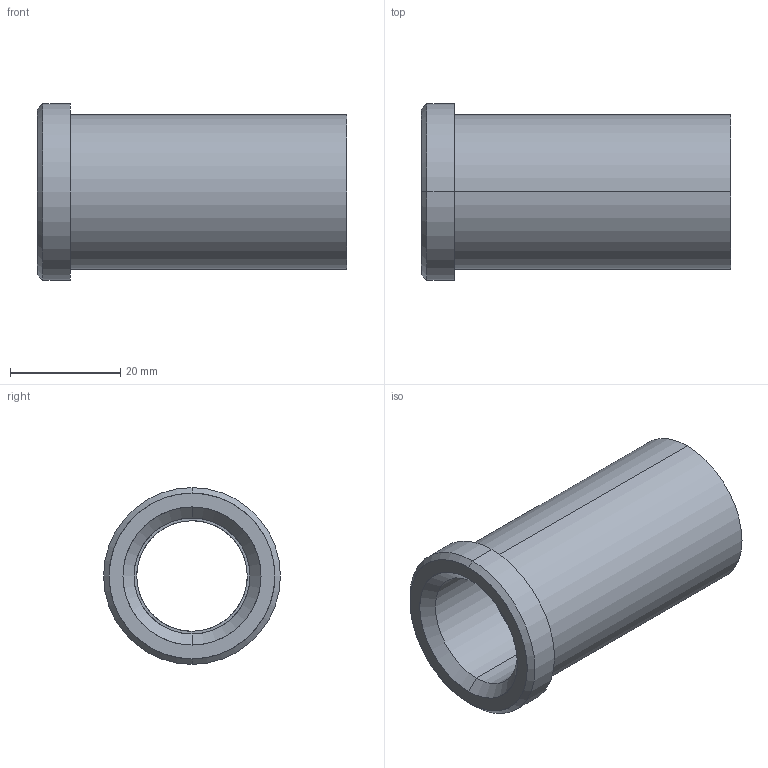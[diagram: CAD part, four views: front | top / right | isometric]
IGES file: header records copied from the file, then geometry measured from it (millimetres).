
Start section: START RECORD GO HERE.
Global section: file name: 353-20X56.igs; native system: DASSAULT SYSTEMES CATIA V5 R20 - www.3ds.com; preprocessor: CATIA Version 5 Release 20 ; author: Utente; organization: NB04-ASUS; date: 20210511.164917; units: millimetre
Bounding box: 56 x 32 x 32 mm (x, y, z)
Surface area: 9378.7 mm2 (no closed solid volume)
Topology: 0 solids, 0 shells, 18 faces, 116 edges, 116 vertices
Faces by surface type: revolution 14, plane 4
